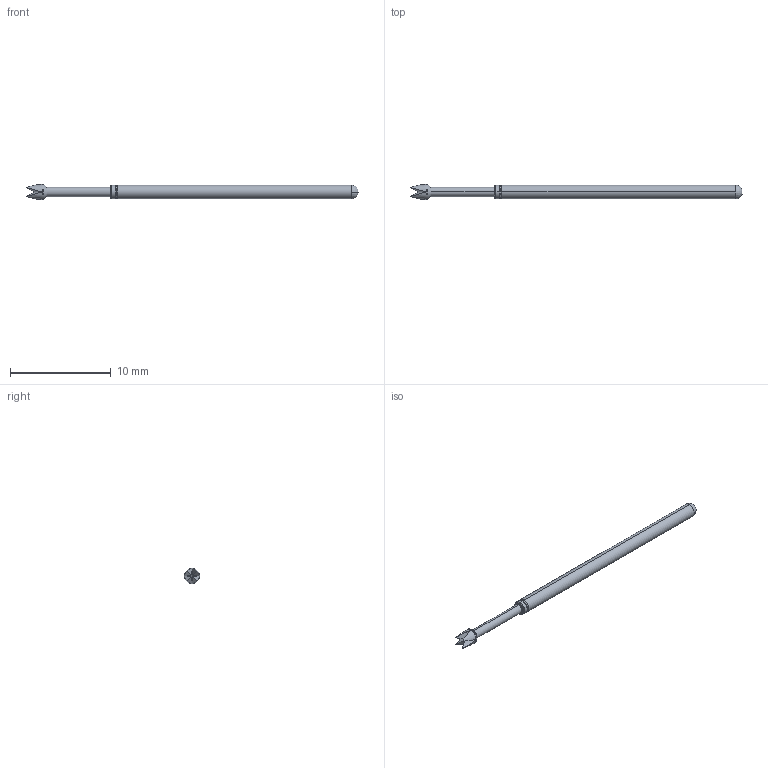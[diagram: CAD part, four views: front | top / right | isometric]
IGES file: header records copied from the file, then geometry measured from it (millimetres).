
Start section: SolidWorks IGES file using analytic representation for surfaces
Global section: file name: Z:\probe solid model mockups\Solidworks models\POGO-25 IGS files\POGO-25L.IGS; native system: SolidWorks 2006 by SolidWorks Corporation; preprocessor: SolidWorks 2006 by SolidWorks Corporation; author: tsakatani; date: 071214.092753; units: inch
Bounding box: 33.02 x 1.52 x 1.52 mm (x, y, z)
Surface area: 136.4 mm2 (no closed solid volume)
Topology: 0 solids, 0 shells, 32 faces, 194 edges, 194 vertices
Faces by surface type: revolution 18, bspline 14
